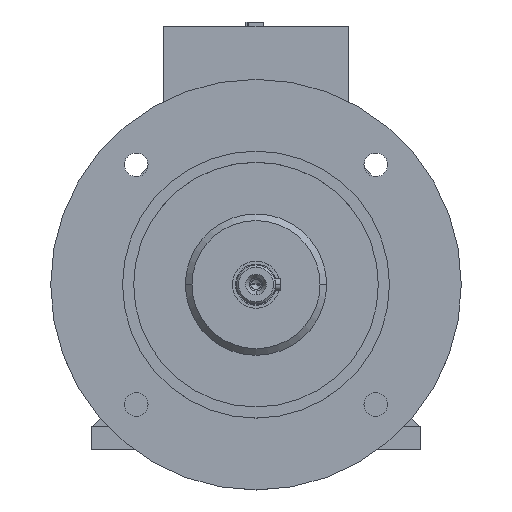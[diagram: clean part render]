
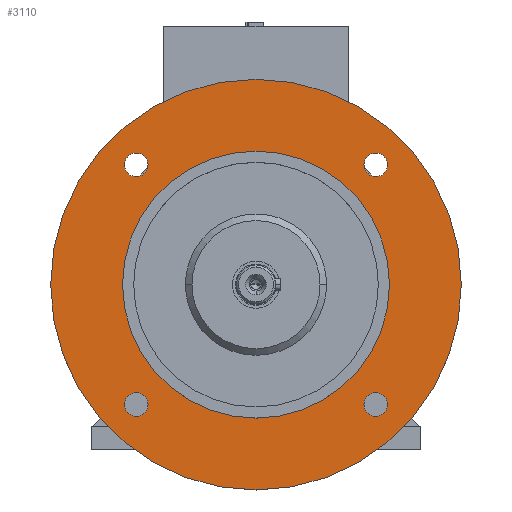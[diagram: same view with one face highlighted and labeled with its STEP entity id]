
A CAD part, top view. The second image highlights one B-rep face of the part: STEP entity #3110.
In plain terms, the highlighted planar face has unit normal (0, 0, 1).
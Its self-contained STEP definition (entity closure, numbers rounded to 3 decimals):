
#17 = VERTEX_POINT ( 'NONE', #12215 ) ;
#25 = EDGE_CURVE ( 'NONE', #7412, #13088, #5461, .T. ) ;
#35 = EDGE_CURVE ( 'NONE', #2940, #17, #1465, .T. ) ;
#86 = CIRCLE ( 'NONE', #2794, 5.75 ) ;
#470 = CARTESIAN_POINT ( 'NONE',  ( -58.336, -58.336, 100. ) ) ;
#553 = AXIS2_PLACEMENT_3D ( 'NONE', #8566, #12357, #918 ) ;
#561 = FACE_BOUND ( 'NONE', #10240, .T. ) ;
#568 = PLANE ( 'NONE',  #5155 ) ;
#654 = DIRECTION ( 'NONE',  ( -1., 0., 0. ) ) ;
#918 = DIRECTION ( 'NONE',  ( -1., 0., 0. ) ) ;
#1348 = EDGE_CURVE ( 'NONE', #6831, #13086, #13191, .T. ) ;
#1465 = CIRCLE ( 'NONE', #1680, 5.75 ) ;
#1680 = AXIS2_PLACEMENT_3D ( 'NONE', #9542, #10755, #11994 ) ;
#1685 = CARTESIAN_POINT ( 'NONE',  ( 58.336, -58.336, 100. ) ) ;
#1770 = FACE_BOUND ( 'NONE', #4240, .T. ) ;
#1842 = DIRECTION ( 'NONE',  ( 0., 0., -1. ) ) ;
#2068 = CIRCLE ( 'NONE', #3579, 5.75 ) ;
#2081 = VERTEX_POINT ( 'NONE', #16513 ) ;
#2399 = CARTESIAN_POINT ( 'NONE',  ( -58.336, 58.336, 100. ) ) ;
#2688 = CARTESIAN_POINT ( 'NONE',  ( 58.336, -58.336, 100. ) ) ;
#2794 = AXIS2_PLACEMENT_3D ( 'NONE', #470, #11970, #13264 ) ;
#2940 = VERTEX_POINT ( 'NONE', #10094 ) ;
#2983 = DIRECTION ( 'NONE',  ( 0., 0., 1. ) ) ;
#3060 = ORIENTED_EDGE ( 'NONE', *, *, #14787, .T. ) ;
#3110 = ADVANCED_FACE ( 'NONE', ( #561, #14143, #13353, #1770, #6179, #6770 ), #568, .T. ) ;
#3300 = CARTESIAN_POINT ( 'NONE',  ( 0., 0., 100. ) ) ;
#3311 = EDGE_CURVE ( 'NONE', #5615, #9869, #16112, .T. ) ;
#3579 = AXIS2_PLACEMENT_3D ( 'NONE', #1685, #2983, #5488 ) ;
#3638 = ORIENTED_EDGE ( 'NONE', *, *, #12345, .F. ) ;
#4031 = DIRECTION ( 'NONE',  ( 0., 0., 1. ) ) ;
#4219 = CARTESIAN_POINT ( 'NONE',  ( 58.336, 58.336, 100. ) ) ;
#4240 = EDGE_LOOP ( 'NONE', ( #12445, #15394 ) ) ;
#4428 = DIRECTION ( 'NONE',  ( 1., 0., 0. ) ) ;
#4585 = DIRECTION ( 'NONE',  ( 0., 0., 1. ) ) ;
#4977 = EDGE_CURVE ( 'NONE', #9869, #5615, #11500, .T. ) ;
#5155 = AXIS2_PLACEMENT_3D ( 'NONE', #9678, #4585, #4428 ) ;
#5225 = DIRECTION ( 'NONE',  ( 0., 0., 1. ) ) ;
#5236 = CIRCLE ( 'NONE', #553, 65. ) ;
#5461 = CIRCLE ( 'NONE', #15659, 100. ) ;
#5483 = EDGE_CURVE ( 'NONE', #13088, #7412, #6135, .T. ) ;
#5488 = DIRECTION ( 'NONE',  ( 1., 0., 0. ) ) ;
#5615 = VERTEX_POINT ( 'NONE', #10941 ) ;
#6135 = CIRCLE ( 'NONE', #14920, 100. ) ;
#6179 = FACE_BOUND ( 'NONE', #9291, .T. ) ;
#6363 = AXIS2_PLACEMENT_3D ( 'NONE', #12819, #11626, #10203 ) ;
#6637 = VERTEX_POINT ( 'NONE', #10987 ) ;
#6770 = FACE_OUTER_BOUND ( 'NONE', #12886, .T. ) ;
#6778 = EDGE_CURVE ( 'NONE', #7267, #2081, #14030, .T. ) ;
#6831 = VERTEX_POINT ( 'NONE', #9047 ) ;
#7039 = AXIS2_PLACEMENT_3D ( 'NONE', #2688, #4031, #7584 ) ;
#7267 = VERTEX_POINT ( 'NONE', #12654 ) ;
#7331 = AXIS2_PLACEMENT_3D ( 'NONE', #4219, #8179, #13153 ) ;
#7389 = EDGE_CURVE ( 'NONE', #17, #2940, #10808, .T. ) ;
#7412 = VERTEX_POINT ( 'NONE', #10002 ) ;
#7494 = CARTESIAN_POINT ( 'NONE',  ( 58.336, 58.336, 100. ) ) ;
#7584 = DIRECTION ( 'NONE',  ( 1., 0., 0. ) ) ;
#7988 = CIRCLE ( 'NONE', #6363, 65. ) ;
#7997 = CARTESIAN_POINT ( 'NONE',  ( 0., 0., 100. ) ) ;
#8179 = DIRECTION ( 'NONE',  ( 0., 0., 1. ) ) ;
#8275 = CARTESIAN_POINT ( 'NONE',  ( 100., 0., 100. ) ) ;
#8564 = AXIS2_PLACEMENT_3D ( 'NONE', #10115, #5225, #8927 ) ;
#8566 = CARTESIAN_POINT ( 'NONE',  ( 0., 0., 100. ) ) ;
#8654 = DIRECTION ( 'NONE',  ( 0., 0., 1. ) ) ;
#8905 = CARTESIAN_POINT ( 'NONE',  ( 65., 0., 100. ) ) ;
#8927 = DIRECTION ( 'NONE',  ( 0., -1., 0. ) ) ;
#8946 = DIRECTION ( 'NONE',  ( 0., 1., 0. ) ) ;
#9047 = CARTESIAN_POINT ( 'NONE',  ( -52.586, -58.336, 100. ) ) ;
#9291 = EDGE_LOOP ( 'NONE', ( #3060, #16401 ) ) ;
#9542 = CARTESIAN_POINT ( 'NONE',  ( -58.336, 58.336, 100. ) ) ;
#9678 = CARTESIAN_POINT ( 'NONE',  ( 0., 100., 100. ) ) ;
#9869 = VERTEX_POINT ( 'NONE', #12342 ) ;
#10002 = CARTESIAN_POINT ( 'NONE',  ( -100., 0., 100. ) ) ;
#10094 = CARTESIAN_POINT ( 'NONE',  ( -52.586, 58.336, 100. ) ) ;
#10101 = ORIENTED_EDGE ( 'NONE', *, *, #7389, .F. ) ;
#10115 = CARTESIAN_POINT ( 'NONE',  ( -58.336, -58.336, 100. ) ) ;
#10136 = VERTEX_POINT ( 'NONE', #8905 ) ;
#10203 = DIRECTION ( 'NONE',  ( -1., 0., 0. ) ) ;
#10240 = EDGE_LOOP ( 'NONE', ( #13175, #3638 ) ) ;
#10497 = EDGE_LOOP ( 'NONE', ( #15237, #10101 ) ) ;
#10673 = DIRECTION ( 'NONE',  ( -1., 0., 0. ) ) ;
#10755 = DIRECTION ( 'NONE',  ( 0., 0., 1. ) ) ;
#10808 = CIRCLE ( 'NONE', #14940, 5.75 ) ;
#10941 = CARTESIAN_POINT ( 'NONE',  ( 52.586, 58.336, 100. ) ) ;
#10987 = CARTESIAN_POINT ( 'NONE',  ( -65., 0., 100. ) ) ;
#11230 = ORIENTED_EDGE ( 'NONE', *, *, #4977, .F. ) ;
#11248 = ORIENTED_EDGE ( 'NONE', *, *, #3311, .F. ) ;
#11309 = DIRECTION ( 'NONE',  ( -1., 0., 0. ) ) ;
#11421 = ORIENTED_EDGE ( 'NONE', *, *, #5483, .F. ) ;
#11500 = CIRCLE ( 'NONE', #7331, 5.75 ) ;
#11612 = EDGE_LOOP ( 'NONE', ( #11230, #11248 ) ) ;
#11626 = DIRECTION ( 'NONE',  ( 0., 0., -1. ) ) ;
#11970 = DIRECTION ( 'NONE',  ( 0., 0., 1. ) ) ;
#11994 = DIRECTION ( 'NONE',  ( -1., 0., 0. ) ) ;
#12215 = CARTESIAN_POINT ( 'NONE',  ( -64.086, 58.336, 100. ) ) ;
#12342 = CARTESIAN_POINT ( 'NONE',  ( 64.086, 58.336, 100. ) ) ;
#12345 = EDGE_CURVE ( 'NONE', #13086, #6831, #86, .T. ) ;
#12357 = DIRECTION ( 'NONE',  ( 0., 0., -1. ) ) ;
#12445 = ORIENTED_EDGE ( 'NONE', *, *, #6778, .F. ) ;
#12654 = CARTESIAN_POINT ( 'NONE',  ( 64.086, -58.336, 100. ) ) ;
#12819 = CARTESIAN_POINT ( 'NONE',  ( 0., 0., 100. ) ) ;
#12886 = EDGE_LOOP ( 'NONE', ( #15617, #11421 ) ) ;
#12981 = EDGE_CURVE ( 'NONE', #2081, #7267, #2068, .T. ) ;
#13086 = VERTEX_POINT ( 'NONE', #15879 ) ;
#13088 = VERTEX_POINT ( 'NONE', #8275 ) ;
#13153 = DIRECTION ( 'NONE',  ( 0., 1., 0. ) ) ;
#13175 = ORIENTED_EDGE ( 'NONE', *, *, #1348, .F. ) ;
#13191 = CIRCLE ( 'NONE', #8564, 5.75 ) ;
#13264 = DIRECTION ( 'NONE',  ( 0., -1., 0. ) ) ;
#13353 = FACE_BOUND ( 'NONE', #11612, .T. ) ;
#13610 = EDGE_CURVE ( 'NONE', #10136, #6637, #5236, .T. ) ;
#14030 = CIRCLE ( 'NONE', #7039, 5.75 ) ;
#14143 = FACE_BOUND ( 'NONE', #10497, .T. ) ;
#14518 = DIRECTION ( 'NONE',  ( 0., 0., -1. ) ) ;
#14787 = EDGE_CURVE ( 'NONE', #6637, #10136, #7988, .T. ) ;
#14920 = AXIS2_PLACEMENT_3D ( 'NONE', #7997, #14518, #10673 ) ;
#14940 = AXIS2_PLACEMENT_3D ( 'NONE', #2399, #8654, #11309 ) ;
#15237 = ORIENTED_EDGE ( 'NONE', *, *, #35, .F. ) ;
#15394 = ORIENTED_EDGE ( 'NONE', *, *, #12981, .F. ) ;
#15617 = ORIENTED_EDGE ( 'NONE', *, *, #25, .F. ) ;
#15659 = AXIS2_PLACEMENT_3D ( 'NONE', #3300, #1842, #654 ) ;
#15879 = CARTESIAN_POINT ( 'NONE',  ( -64.086, -58.336, 100. ) ) ;
#16112 = CIRCLE ( 'NONE', #16138, 5.75 ) ;
#16138 = AXIS2_PLACEMENT_3D ( 'NONE', #7494, #16378, #8946 ) ;
#16378 = DIRECTION ( 'NONE',  ( 0., 0., 1. ) ) ;
#16401 = ORIENTED_EDGE ( 'NONE', *, *, #13610, .T. ) ;
#16513 = CARTESIAN_POINT ( 'NONE',  ( 52.586, -58.336, 100. ) ) ;
